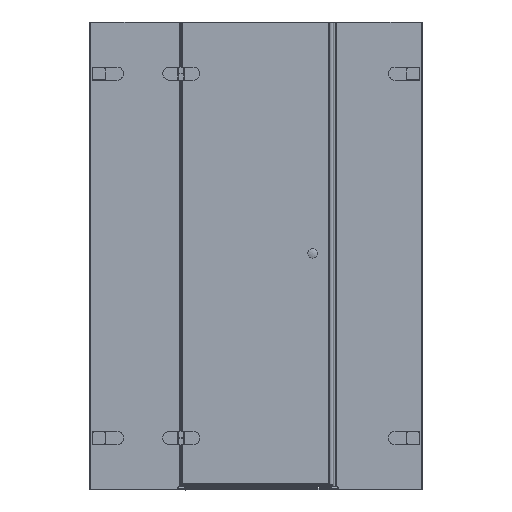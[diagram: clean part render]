
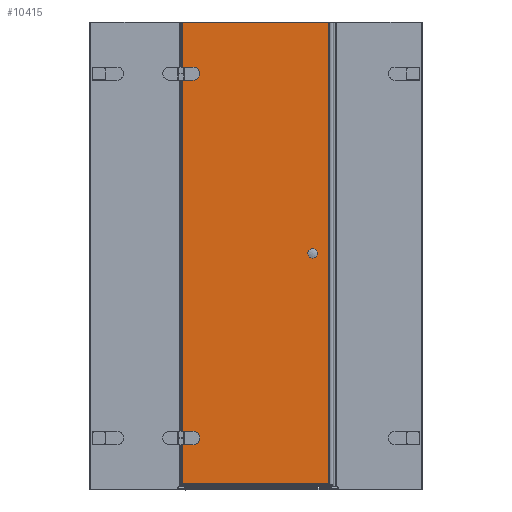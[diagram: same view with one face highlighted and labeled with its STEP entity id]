
A CAD part, front view. The second image highlights one B-rep face of the part: STEP entity #10415.
In plain terms, the highlighted planar face has unit normal (0, -1, 0).
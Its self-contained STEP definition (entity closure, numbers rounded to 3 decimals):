
#140=LINE($,#14602,#1246);
#143=LINE($,#14608,#1249);
#147=LINE($,#14618,#1253);
#190=LINE($,#14730,#1296);
#193=LINE($,#14736,#1299);
#197=LINE($,#14746,#1303);
#810=LINE($,#16446,#1916);
#838=LINE($,#16548,#1944);
#839=LINE($,#16550,#1945);
#840=LINE($,#16551,#1946);
#1246=VECTOR($,#11768,52.);
#1249=VECTOR($,#11773,23.);
#1253=VECTOR($,#11785,23.);
#1296=VECTOR($,#11892,52.);
#1299=VECTOR($,#11897,23.);
#1303=VECTOR($,#11909,23.);
#1916=VECTOR($,#13392,600.);
#1944=VECTOR($,#13472,1875.4);
#1945=VECTOR($,#13473,600.);
#1946=VECTOR($,#13474,1875.4);
#2303=FACE_BOUND($,#3429,.T.);
#2304=FACE_BOUND($,#3430,.T.);
#2305=FACE_BOUND($,#3431,.T.);
#3429=EDGE_LOOP($,(#7907,#7908,#7909,#7910));
#3430=EDGE_LOOP($,(#7911,#7912,#7913,#7914));
#3431=EDGE_LOOP($,(#7915,#7916,#7917,#7918));
#3676=CIRCLE($,#10711,26.);
#3688=CIRCLE($,#10748,26.);
#4013=VERTEX_POINT($,#14599);
#4014=VERTEX_POINT($,#14601);
#4016=VERTEX_POINT($,#14607);
#4018=VERTEX_POINT($,#14613);
#4054=VERTEX_POINT($,#14727);
#4055=VERTEX_POINT($,#14729);
#4057=VERTEX_POINT($,#14735);
#4059=VERTEX_POINT($,#14741);
#4578=VERTEX_POINT($,#16431);
#4580=VERTEX_POINT($,#16445);
#4604=VERTEX_POINT($,#16547);
#4605=VERTEX_POINT($,#16549);
#4926=EDGE_CURVE($,#4014,#4013,#140,.T.);
#4929=EDGE_CURVE($,#4016,#4014,#143,.T.);
#4932=EDGE_CURVE($,#4018,#4016,#3676,.T.);
#4935=EDGE_CURVE($,#4013,#4018,#147,.T.);
#4988=EDGE_CURVE($,#4055,#4054,#190,.T.);
#4991=EDGE_CURVE($,#4057,#4055,#193,.T.);
#4994=EDGE_CURVE($,#4059,#4057,#3688,.T.);
#4997=EDGE_CURVE($,#4054,#4059,#197,.T.);
#5775=EDGE_CURVE($,#4580,#4578,#810,.T.);
#5817=EDGE_CURVE($,#4578,#4604,#838,.T.);
#5818=EDGE_CURVE($,#4605,#4604,#839,.T.);
#5819=EDGE_CURVE($,#4580,#4605,#840,.T.);
#7907=ORIENTED_EDGE($,*,*,#4926,.T.);
#7908=ORIENTED_EDGE($,*,*,#4935,.T.);
#7909=ORIENTED_EDGE($,*,*,#4932,.T.);
#7910=ORIENTED_EDGE($,*,*,#4929,.T.);
#7911=ORIENTED_EDGE($,*,*,#4988,.T.);
#7912=ORIENTED_EDGE($,*,*,#4997,.T.);
#7913=ORIENTED_EDGE($,*,*,#4994,.T.);
#7914=ORIENTED_EDGE($,*,*,#4991,.T.);
#7915=ORIENTED_EDGE($,*,*,#5775,.T.);
#7916=ORIENTED_EDGE($,*,*,#5817,.T.);
#7917=ORIENTED_EDGE($,*,*,#5818,.F.);
#7918=ORIENTED_EDGE($,*,*,#5819,.F.);
#9307=PLANE($,#11210);
#10415=ADVANCED_FACE($,(#2303,#2304,#2305),#9307,.T.);
#10711=AXIS2_PLACEMENT_3D($,#14614,#11779,#11780);
#10748=AXIS2_PLACEMENT_3D($,#14742,#11903,#11904);
#11210=AXIS2_PLACEMENT_3D($,#16546,#13470,#13471);
#11768=DIRECTION($,(0.,0.,1.));
#11773=DIRECTION($,(-1.,0.,0.));
#11779=DIRECTION('center_axis',(0.,1.,0.));
#11780=DIRECTION('ref_axis',(0.,0.,
1.));
#11785=DIRECTION($,(1.,0.,0.));
#11892=DIRECTION($,(0.,0.,1.));
#11897=DIRECTION($,(-1.,0.,0.));
#11903=DIRECTION('center_axis',(0.,1.,0.));
#11904=DIRECTION('ref_axis',(0.,0.,
1.));
#11909=DIRECTION($,(1.,0.,0.));
#13392=DIRECTION($,(1.,0.,0.));
#13470=DIRECTION('center_axis',(0.,-1.,0.));
#13471=DIRECTION('ref_axis',(1.,0.,0.));
#13472=DIRECTION($,(0.,0.,1.));
#13473=DIRECTION($,(1.,0.,0.));
#13474=DIRECTION($,(0.,0.,1.));
#14599=CARTESIAN_POINT('',(740.59,5.956,1201.944));
#14601=CARTESIAN_POINT('',(740.59,5.956,1149.944));
#14602=CARTESIAN_POINT($,(740.59,5.956,327.944));
#14607=CARTESIAN_POINT('',(763.59,5.956,1149.944));
#14608=CARTESIAN_POINT($,(741.59,5.956,1149.944));
#14613=CARTESIAN_POINT('',(763.59,5.956,1201.944));
#14614=CARTESIAN_POINT('Origin',(763.59,5.956,1175.944));
#14618=CARTESIAN_POINT($,(730.09,5.956,1201.944));
#14727=CARTESIAN_POINT('',(740.59,5.956,-278.056));
#14729=CARTESIAN_POINT('',(740.59,5.956,-330.056));
#14730=CARTESIAN_POINT($,(740.59,5.956,-412.056));
#14735=CARTESIAN_POINT('',(763.59,5.956,-330.056));
#14736=CARTESIAN_POINT($,(741.59,5.956,-330.056));
#14741=CARTESIAN_POINT('',(763.59,5.956,-278.056));
#14742=CARTESIAN_POINT('Origin',(763.59,5.956,-304.056));
#14746=CARTESIAN_POINT($,(730.09,5.956,-278.056));
#16431=CARTESIAN_POINT('',(1319.59,5.956,-489.456));
#16445=CARTESIAN_POINT('',(719.59,5.956,-489.456));
#16446=CARTESIAN_POINT($,(719.59,5.956,-489.456));
#16546=CARTESIAN_POINT('Origin',(719.59,5.956,-494.056));
#16547=CARTESIAN_POINT('',(1319.59,5.956,1385.944));
#16548=CARTESIAN_POINT($,(1319.59,5.956,-494.056));
#16549=CARTESIAN_POINT('',(719.59,5.956,1385.944));
#16550=CARTESIAN_POINT($,(719.59,5.956,1385.944));
#16551=CARTESIAN_POINT($,(719.59,5.956,-494.056));
